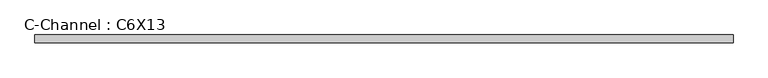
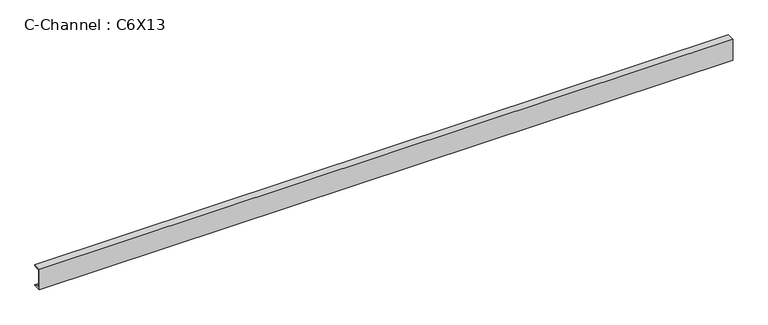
"""IFC4 building model written with IfcOpenShell, lengths in millimetres: beam geometry, C-Channel : C6X13."""

from ifc_helpers import new_model, si_unit, point, frame, frame_2d, origin, place, context, project, spatial, polyline, circle_curve, trimmed, segment, composite_curve, outline, extrude, source, transform, mapped, element, save


def c_channel_c6x13_115fb7c3(model_context):
    return source(origin(), model_context, "Body", "SweptSolid", [
        extrude(outline(composite_curve([segment(polyline([(-13.0556, 76.2), (41.8084, 76.2)]), True, "CONTINUOUS"), segment(trimmed(circle_curve(frame_2d((33.0962, 76.2)), 8.7122), [point((41.8084, 76.2))], [point((33.0962, 67.4878))], False, "CARTESIAN"), True, "CONTINUOUS"), segment(polyline([(33.0962, 67.4878), (-1.9558, 61.9361086), (-1.9558, -61.9361086), (33.0962, -67.4878)]), True, "CONTINUOUS"), segment(trimmed(circle_curve(frame_2d((33.0962, -76.2)), 8.7122), [point((33.0962, -67.4878))], [point((41.8084, -76.2))], False, "CARTESIAN"), True, "CONTINUOUS"), segment(polyline([(41.8084, -76.2), (-13.0556, -76.2), (-13.0556, 76.2)]), True, "CONTINUOUS")], self_intersect=False)), frame((-2415.6591959, 0.0, 0.0), z_axis=(1.0, 0.0, 0.0), x_axis=(0.0, 1.0, 0.0)), (0.0, 0.0, 1.0), 4831.3298464),
    ])


if __name__ == "__main__":
    model = new_model("IFC4")
    model_context = context("Model", 3, world=origin())
    ifc_project = project(units=[si_unit("LENGTHUNIT", "METRE", prefix="MILLI")], contexts=[model_context])
    site = spatial("IfcSite", under=ifc_project)
    building = spatial("IfcBuilding", under=site)
    placement = place(None, origin())
    c_channel_c6x13_shape = c_channel_c6x13_115fb7c3(model_context)
    element("IfcBeam", 1, ObjectType="C-Channel : C6X13", at=placement, inside=building, context=model_context, shape_type="MappedRepresentation", body=[
        mapped(c_channel_c6x13_shape, transform((0.0, 0.0, 0.0), x_axis=(1.0, 0.0, 0.0), y_axis=(0.0, 1.0, 0.0), z_axis=(0.0, 0.0, 1.0))),
    ])
    save(model, "model.ifc")
